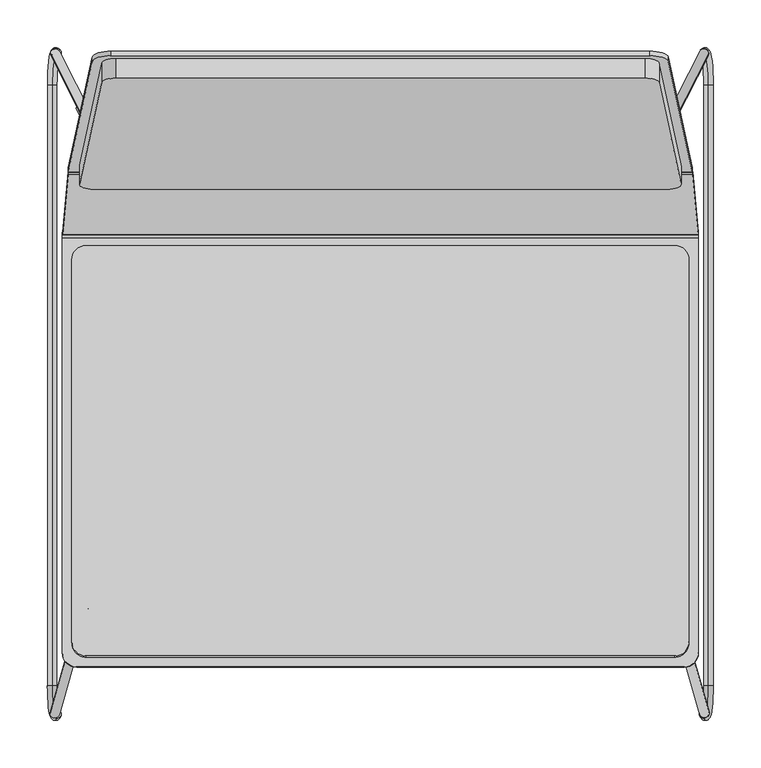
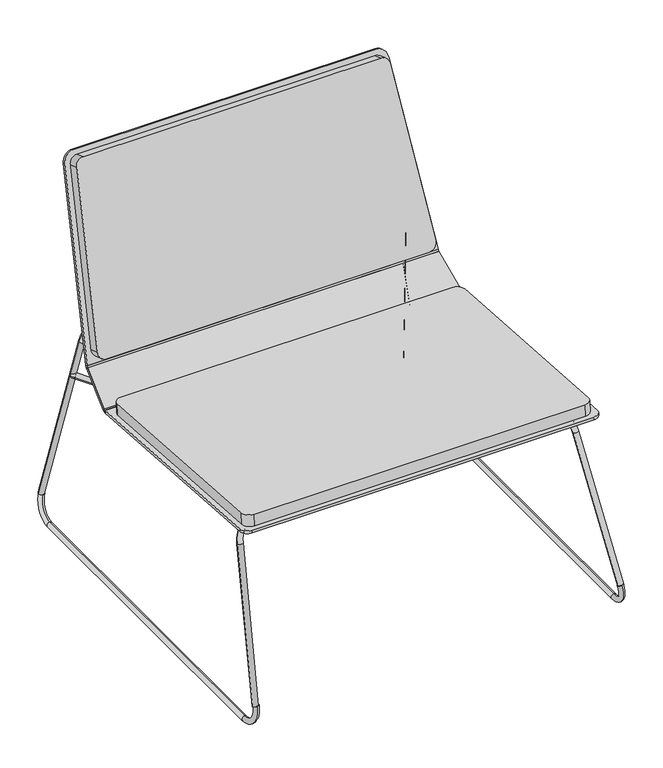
"""IFC4 building model written with IfcOpenShell, lengths in millimetres: furniture geometry, Tom Collection_B : Tom Collection_B."""

from ifc_helpers import new_model, si_unit, point, frame, frame_2d, origin, place, context, project, spatial, polyline, circle_curve, ellipse_curve, trimmed, segment, composite_curve, outline, extrude, source, transform, mapped, element, save
from ifc_brep_helpers import plane_surface, cylinder_surface, revolved_surface, advanced_brep


def furniture_996d12b4(model_context):
    return source(origin(), model_context, "Body", "SolidModel", [
        extrude(outline(polyline([(6.9942414, 0.0), (6.8397608, -6.9925099), (-0.1544552, -6.9925358), (0.0, 0.0), (6.9942414, 0.0)])), frame((-134.9998993, 268.6484736, 418.518617), z_axis=(0.0, -0.9781481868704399, 0.20790893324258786), x_axis=(0.7148717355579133, -0.1453814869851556, -0.6839756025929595)), (0.0, 0.0, 1.0), 14.9999995),
        extrude(outline(composite_curve([segment(polyline([(247.5043369, 434.0226366), (252.2858806, 432.5608731), (249.5216766, 423.5195414)]), True, "CONTINUOUS"), segment(trimmed(circle_curve(frame_2d((252.3905916, 422.6424287)), 3.0), [point((249.5216766, 423.5195414))], [point((251.7668647, 419.7079842))], True, "CARTESIAN"), True, "CONTINUOUS"), segment(polyline([(251.7668647, 419.7079842), (269.2842105, 415.9846088)]), True, "CONTINUOUS"), segment(trimmed(circle_curve(frame_2d((269.9079374, 418.9190534)), 3.0), [point((269.2842105, 415.9846088))], [point((272.8855759, 418.5534464))], True, "CARTESIAN"), True, "CONTINUOUS"), segment(polyline([(272.8855759, 418.5534464), (274.037768, 427.9373249), (279.0004949, 427.3279152), (277.7152991, 416.8608908)]), True, "CONTINUOUS"), segment(trimmed(circle_curve(frame_2d((270.7674766, 417.7139806)), 7.0), [point((277.7152991, 416.8608908))], [point((269.3119915, 410.8669694))], False, "CARTESIAN"), True, "CONTINUOUS"), segment(polyline([(269.3119915, 410.8669694), (249.6598051, 415.0444803)]), True, "CONTINUOUS"), segment(trimmed(circle_curve(frame_2d((251.1152902, 421.8914915)), 7.0), [point((249.6598051, 415.0444803))], [point((244.4211616, 423.9381091))], False, "CARTESIAN"), True, "CONTINUOUS"), segment(polyline([(244.4211616, 423.9381091), (247.5043369, 434.0226366)]), True, "CONTINUOUS")], self_intersect=False)), frame((-138.0311096, 0.0, 0.0), z_axis=(1.0, 0.0, 0.0), x_axis=(0.0, 1.0, 0.0)), (0.0, 0.0, 1.0), 6.06213),
        extrude(outline(polyline([(0.0, 0.0), (-0.1544812, -6.9925352), (-7.1487226, -6.9925092), (-6.9942161, 0.0), (0.0, 0.0)])), frame((129.9999138, 267.6316404, 413.7347265), z_axis=(0.0, -0.97814818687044, 0.2079089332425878), x_axis=(-0.714874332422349, 0.1453809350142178, 0.6839730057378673)), (0.0, 0.0, 1.0), 14.9999995),
        extrude(outline(composite_curve([segment(polyline([(247.5043369, 434.0226366), (252.2858806, 432.5608731), (249.5216766, 423.5195414)]), True, "CONTINUOUS"), segment(trimmed(circle_curve(frame_2d((252.3905916, 422.6424287)), 3.0), [point((249.5216766, 423.5195414))], [point((251.7668647, 419.7079842))], True, "CARTESIAN"), True, "CONTINUOUS"), segment(polyline([(251.7668647, 419.7079842), (269.2842105, 415.9846088)]), True, "CONTINUOUS"), segment(trimmed(circle_curve(frame_2d((269.9079374, 418.9190534)), 3.0), [point((269.2842105, 415.9846088))], [point((272.8855759, 418.5534464))], True, "CARTESIAN"), True, "CONTINUOUS"), segment(polyline([(272.8855759, 418.5534464), (274.037768, 427.9373249), (279.0004949, 427.3279152), (277.7152991, 416.8608908)]), True, "CONTINUOUS"), segment(trimmed(circle_curve(frame_2d((270.7674766, 417.7139806)), 7.0), [point((277.7152991, 416.8608908))], [point((269.3119915, 410.8669694))], False, "CARTESIAN"), True, "CONTINUOUS"), segment(polyline([(269.3119915, 410.8669694), (249.6598051, 415.0444803)]), True, "CONTINUOUS"), segment(trimmed(circle_curve(frame_2d((251.1152902, 421.8914915)), 7.0), [point((249.6598051, 415.0444803))], [point((244.4211616, 423.9381091))], False, "CARTESIAN"), True, "CONTINUOUS"), segment(polyline([(244.4211616, 423.9381091), (247.5043369, 434.0226366)]), True, "CONTINUOUS")], self_intersect=False)), frame((131.9689796, 0.0, 0.0), z_axis=(1.0, 0.0, 0.0), x_axis=(0.0, 1.0, 0.0)), (0.0, 0.0, 1.0), 6.06213),
        advanced_brep(
        [(340.8004455, -357.9633095, 43.4566213), (341.184584, -348.602756, 39.9591257), (346.1708796, -323.9025252, -5.439983), (345.0791204, -323.9025252, 4.5002415), (345.0791204, 308.640969, 4.5002415), (346.1708796, 308.640969, -5.439983), (340.8899225, 347.1435791, 42.6419528), (341.1192356, 337.3666511, 40.5541082)],
        [
            (0, 1, circle_curve(frame((340.9925147, -353.2830328, 41.7078735), z_axis=(-0.10219471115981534, 0.3518527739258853, 0.9304600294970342), x_axis=(0.038413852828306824, 0.936055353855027, -0.3497495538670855)), 5.0)),
            (1, 0, circle_curve(frame((340.9925147, -353.2830328, 41.7078735), z_axis=(-0.10219471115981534, 0.3518527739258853, 0.9304600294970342), x_axis=(0.038413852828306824, 0.936055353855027, -0.3497495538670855)), 5.0)),
            (2, 0, circle_curve(frame((342.1982324, -323.9025252, 30.7300832), z_axis=(-0.9940224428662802, 0.0, -0.10917592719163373), x_axis=(-0.03841385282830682, -0.936055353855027, 0.3497495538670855)), 36.3875749)),
            (1, 3, circle_curve(frame((342.1982324, -323.9025252, 30.7300832), z_axis=(0.9940224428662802, 0.0, 0.10917592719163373), x_axis=(-0.03841385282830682, -0.936055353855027, 0.3497495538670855)), 26.3875749)),
            (3, 2, circle_curve(frame((345.625, -323.9025252, -0.4698707), z_axis=(0.0, -1.0, 0.0), x_axis=(-0.10917592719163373, 0.0, 0.9940224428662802)), 5.0)),
            (2, 3, circle_curve(frame((345.625, -323.9025252, -0.4698707), z_axis=(0.0, -1.0, 0.0), x_axis=(-0.10917592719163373, 0.0, 0.9940224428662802)), 5.0)),
            (3, 4),
            (4, 5, circle_curve(frame((345.625, 308.640969, -0.4698707), z_axis=(0.0, -1.0, 0.0), x_axis=(-0.10917592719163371, 0.0, 0.99402244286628)), 5.0)),
            (5, 2),
            (5, 4, circle_curve(frame((345.625, 308.640969, -0.4698707), z_axis=(0.0, -1.0, 0.0), x_axis=(-0.10917592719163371, 0.0, 0.99402244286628)), 5.0)),
            (6, 7, circle_curve(frame((341.004579, 342.2551151, 41.5980305), z_axis=(-0.10674051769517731, -0.21003998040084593, 0.971848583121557), x_axis=(0.02293130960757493, -0.9776927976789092, -0.20878445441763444)), 5.0)),
            (7, 6, circle_curve(frame((341.004579, 342.2551151, 41.5980305), z_axis=(-0.10674051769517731, -0.21003998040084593, 0.971848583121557), x_axis=(0.02293130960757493, -0.9776927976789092, -0.20878445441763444)), 5.0)),
            (6, 5, circle_curve(frame((341.8066773, 308.0570837, 34.2951053), z_axis=(-0.9940224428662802, 0.0, -0.10917592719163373), x_axis=(0.10916428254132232, 0.01460505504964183, -0.9939164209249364)), 39.9782994)),
            (4, 7, circle_curve(frame((341.8066773, 308.0570837, 34.2951053), z_axis=(0.9940224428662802, 0.0, 0.10917592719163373), x_axis=(0.10916428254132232, 0.01460505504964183, -0.9939164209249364)), 29.9782994)),
        ],
        [
            plane_surface(frame((-2.7585614, -357.9633095, 5.7226914), z_axis=(-0.10219471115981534, 0.3518527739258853, 0.9304600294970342), x_axis=(-0.9940224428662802, 0.0, -0.10917592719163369))),
            revolved_surface(trimmed(ellipse_curve(frame((340.9925147, -353.2830328, 41.7078735), z_axis=(-0.10219471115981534, 0.3518527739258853, 0.9304600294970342), x_axis=(0.038413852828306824, 0.936055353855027, -0.3497495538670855)), 5.0, 5.0), [point((341.184584, -348.602756, 39.9591257))], [point((340.8004455, -357.9633095, 43.4566213))], True, "CARTESIAN"), (-1.3607744, -323.9025252, -7.0038467), (0.9940224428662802, 0.0, 0.10917592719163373)),
            revolved_surface(trimmed(ellipse_curve(frame((340.9925147, -353.2830328, 41.7078735), z_axis=(-0.10219471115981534, 0.3518527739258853, 0.9304600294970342), x_axis=(0.038413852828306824, 0.936055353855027, -0.3497495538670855)), 5.0, 5.0), [point((340.8004455, -357.9633095, 43.4566213))], [point((341.184584, -348.602756, 39.9591257))], True, "CARTESIAN"), (-1.3607744, -323.9025252, -7.0038467), (0.9940224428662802, 0.0, 0.10917592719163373)),
            cylinder_surface(frame((345.625, -323.9025252, -0.4698707), z_axis=(0.0, -1.0, 0.0), x_axis=(-0.10917592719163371, 0.0, 0.99402244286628)), 5.0),
            plane_surface(frame((-2.6690843, 347.1435791, 4.9080229), z_axis=(-0.10674051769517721, -0.21003998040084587, 0.9718485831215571), x_axis=(-0.9940224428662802, 0.0, -0.10917592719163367))),
            revolved_surface(trimmed(ellipse_curve(frame((345.6250582, 308.5679437, -0.4704009), z_axis=(0.0015945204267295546, -0.9998933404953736, -0.014517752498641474), x_axis=(-0.10916428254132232, -0.014605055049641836, 0.9939164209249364)), 5.0, 5.0), [point((345.0792368, 308.4949184, 4.4991812))], [point((346.1708796, 308.640969, -5.439983))], True, "CARTESIAN"), (-1.7523296, 308.0570837, -3.4388245), (0.9940224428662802, 0.0, 0.10917592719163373)),
            revolved_surface(trimmed(ellipse_curve(frame((345.6250582, 308.5679437, -0.4704009), z_axis=(0.0015945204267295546, -0.9998933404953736, -0.014517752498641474), x_axis=(-0.10916428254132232, -0.014605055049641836, 0.9939164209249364)), 5.0, 5.0), [point((346.1708796, 308.640969, -5.439983))], [point((345.0792368, 308.4949184, 4.4991812))], True, "CARTESIAN"), (-1.7523296, 308.0570837, -3.4388245), (0.9940224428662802, 0.0, 0.10917592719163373)),
        ],
        [
            (0, [[1, 2]]),
            (1, [[3, -2, 4, 5]]),
            (2, [[-4, -1, -3, 6]]),
            (3, [[-5, 7, 8, 9]]),
            (3, [[-6, -9, 10, -7]]),
            (4, [[11, 12]]),
            (5, [[13, -8, 14, -11]]),
            (6, [[-14, -10, -13, -12]]),
        ],
    ),
        extrude(outline(composite_curve([segment(trimmed(circle_curve(frame_2d((-243.75, 5.0)), 5.0), [point((-243.75, 10.0))], [point((-243.75, 0.0))], False, "CARTESIAN"), True, "CONTINUOUS"), segment(trimmed(circle_curve(frame_2d((-243.75, 5.0)), 5.0), [point((-243.75, 0.0))], [point((-243.75, 10.0))], False, "CARTESIAN"), True, "CONTINUOUS")], self_intersect=False)), frame((0.0, 133.4421426, 305.428014), z_axis=(0.0, -0.997564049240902, 0.06975648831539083), x_axis=(1.0, 0.0, 0.0)), (0.0, 0.0, 1.0), 374.4520826),
        extrude(outline(composite_curve([segment(trimmed(circle_curve(frame_2d((236.25, 5.0)), 5.0), [point((236.25, 10.0))], [point((236.25, 0.0))], False, "CARTESIAN"), True, "CONTINUOUS"), segment(trimmed(circle_curve(frame_2d((236.25, 5.0)), 5.0), [point((236.25, 0.0))], [point((236.25, 10.0))], False, "CARTESIAN"), True, "CONTINUOUS")], self_intersect=False)), frame((0.0, 133.4421426, 305.428014), z_axis=(0.0, -0.997564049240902, 0.06975648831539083), x_axis=(1.0, 0.0, 0.0)), (0.0, 0.0, 1.0), 374.4520826),
        advanced_brep(
        [(304.4321116, 288.602553, 299.3326364), (313.4912333, 284.3786808, 299.6346605), (236.6776092, 144.025734, 309.6704702), (245.7367308, 139.8018618, 309.9724943), (227.6184875, 128.3005393, 310.7948859), (227.6184875, 138.2750727, 310.0816659), (-234.5437756, 138.2750727, 310.0816659), (-234.5437756, 128.3005393, 310.7948859), (-252.6620214, 139.8018672, 309.9724939), (-243.6028985, 144.0257367, 309.67047), (-311.3573575, 288.6025759, 299.3326348), (-320.4164804, 284.3787064, 299.6346587)],
        [
            (0, 1, circle_curve(frame((308.9616724, 286.4906169, 299.4836485), z_axis=(0.42346564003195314, 0.9036051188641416, -0.06461146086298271), x_axis=(0.9059121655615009, -0.4223872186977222, 0.030202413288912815)), 5.0)),
            (1, 0, circle_curve(frame((308.9616724, 286.4906169, 299.4836485), z_axis=(0.42346564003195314, 0.9036051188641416, -0.06461146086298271), x_axis=(0.9059121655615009, -0.4223872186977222, 0.030202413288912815)), 5.0)),
            (0, 2),
            (2, 3, circle_curve(frame((241.20717, 141.9137979, 309.8214822), z_axis=(0.42346564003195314, 0.9036051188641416, -0.06461146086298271), x_axis=(0.9059121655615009, -0.4223872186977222, 0.030202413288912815)), 5.0)),
            (3, 1),
            (3, 2, circle_curve(frame((241.20717, 141.9137979, 309.8214822), z_axis=(0.42346564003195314, 0.9036051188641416, -0.06461146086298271), x_axis=(0.9059121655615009, -0.4223872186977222, 0.030202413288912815)), 5.0)),
            (4, 3, circle_curve(frame((227.6184875, 148.2496062, 309.368446), z_axis=(0.0, 0.07132199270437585, 0.9974533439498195), x_axis=(0.9059121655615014, -0.422387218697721, 0.030202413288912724)), 20.0)),
            (2, 5, circle_curve(frame((227.6184875, 148.2496062, 309.368446), z_axis=(0.0, -0.07132199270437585, -0.9974533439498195), x_axis=(0.9059121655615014, -0.422387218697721, 0.030202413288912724)), 10.0)),
            (5, 4, circle_curve(frame((227.6184875, 133.287806, 310.4382759), z_axis=(0.9999999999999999, 0.0, 0.0), x_axis=(0.0, -0.9974533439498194, 0.07132199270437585)), 5.0)),
            (4, 5, circle_curve(frame((227.6184875, 133.287806, 310.4382759), z_axis=(0.9999999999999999, 0.0, 0.0), x_axis=(0.0, -0.9974533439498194, 0.07132199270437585)), 5.0)),
            (5, 6),
            (6, 7, circle_curve(frame((-234.5437756, 133.287806, 310.4382759), z_axis=(1.0, 0.0, 0.0), x_axis=(0.0, -0.9974533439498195, 0.07132199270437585)), 5.0)),
            (7, 4),
            (7, 6, circle_curve(frame((-234.5437756, 133.287806, 310.4382759), z_axis=(1.0, 0.0, 0.0), x_axis=(0.0, -0.9974533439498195, 0.07132199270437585)), 5.0)),
            (8, 7, circle_curve(frame((-234.5437756, 148.2496062, 309.368446), z_axis=(0.0, 0.07132199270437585, 0.9974533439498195), x_axis=(0.0, -0.9974533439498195, 0.07132199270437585)), 20.0)),
            (6, 9, circle_curve(frame((-234.5437756, 148.2496062, 309.368446), z_axis=(0.0, -0.07132199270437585, -0.9974533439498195), x_axis=(0.0, -0.9974533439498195, 0.07132199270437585)), 10.0)),
            (9, 8, circle_curve(frame((-248.1324599, 141.9138019, 309.8214819), z_axis=(0.4234653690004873, -0.9036052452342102, 0.06461146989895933), x_axis=(-0.9059122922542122, -0.42238694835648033, 0.030202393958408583)), 5.0)),
            (8, 9, circle_curve(frame((-248.1324599, 141.9138019, 309.8214819), z_axis=(0.42346536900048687, -0.9036052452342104, 0.06461146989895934), x_axis=(-0.9059122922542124, -0.4223869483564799, 0.03020239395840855)), 5.0)),
            (10, 11, circle_curve(frame((-315.886919, 286.4906412, 299.4836467), z_axis=(-0.42346536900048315, 0.9036052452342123, -0.06461146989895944), x_axis=(-0.9059122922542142, -0.4223869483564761, 0.03020239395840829)), 5.0)),
            (11, 10, circle_curve(frame((-315.886919, 286.4906412, 299.4836467), z_axis=(-0.42346536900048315, 0.9036052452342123, -0.06461146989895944), x_axis=(-0.9059122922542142, -0.4223869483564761, 0.03020239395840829)), 5.0)),
            (9, 10),
            (11, 8),
        ],
        [
            plane_surface(frame((313.4912333, 262.2376044, -10.0130358), z_axis=(0.4234656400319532, 0.9036051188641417, -0.06461146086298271), x_axis=(0.0, 0.07132199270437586, 0.9974533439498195))),
            cylinder_surface(frame((308.9616724, 286.4906169, 299.4836485), z_axis=(0.42346564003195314, 0.9036051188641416, -0.06461146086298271), x_axis=(0.9059121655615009, -0.4223872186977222, 0.030202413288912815)), 5.0),
            revolved_surface(trimmed(ellipse_curve(frame((241.20717, 141.9137979, 309.8214822), z_axis=(0.4234656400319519, 0.9036051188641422, -0.06461146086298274), x_axis=(0.9059121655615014, -0.422387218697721, 0.030202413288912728)), 5.0, 5.0), [point((236.6776092, 144.025734, 309.6704702))], [point((245.7367308, 139.8018618, 309.9724943))], True, "CARTESIAN"), (227.6184875, 126.1085297, -0.2792504), (0.0, -0.07132199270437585, -0.9974533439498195)),
            revolved_surface(trimmed(ellipse_curve(frame((241.20717, 141.9137979, 309.8214822), z_axis=(0.4234656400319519, 0.9036051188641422, -0.06461146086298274), x_axis=(0.9059121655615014, -0.422387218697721, 0.030202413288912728)), 5.0, 5.0), [point((245.7367308, 139.8018618, 309.9724943))], [point((236.6776092, 144.025734, 309.6704702))], True, "CARTESIAN"), (227.6184875, 126.1085297, -0.2792504), (0.0, -0.07132199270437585, -0.9974533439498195)),
            cylinder_surface(frame((227.6184875, 133.287806, 310.4382759), z_axis=(1.0, 0.0, 0.0), x_axis=(0.0, -0.9974533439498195, 0.07132199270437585)), 5.0),
            revolved_surface(trimmed(ellipse_curve(frame((-234.5437756, 133.287806, 310.4382759), z_axis=(1.0, 0.0, 0.0), x_axis=(0.0, -0.9974533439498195, 0.07132199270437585)), 5.0, 5.0), [point((-234.5437756, 138.2750727, 310.0816659))], [point((-234.5437756, 128.3005393, 310.7948859))], True, "CARTESIAN"), (-234.5437756, 126.1085297, -0.2792504), (0.0, -0.07132199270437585, -0.9974533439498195)),
            revolved_surface(trimmed(ellipse_curve(frame((-234.5437756, 133.287806, 310.4382759), z_axis=(1.0, 0.0, 0.0), x_axis=(0.0, -0.9974533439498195, 0.07132199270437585)), 5.0, 5.0), [point((-234.5437756, 128.3005393, 310.7948859))], [point((-234.5437756, 138.2750727, 310.0816659))], True, "CARTESIAN"), (-234.5437756, 126.1085297, -0.2792504), (0.0, -0.07132199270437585, -0.9974533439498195)),
            plane_surface(frame((-320.4164804, 262.23763, -10.0130377), z_axis=(-0.42346536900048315, 0.9036052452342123, -0.06461146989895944), x_axis=(0.0, 0.07132199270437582, 0.9974533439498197))),
            cylinder_surface(frame((-248.1324599, 141.9138019, 309.8214819), z_axis=(0.42346536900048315, -0.9036052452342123, 0.06461146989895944), x_axis=(-0.9059122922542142, -0.4223869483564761, 0.03020239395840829)), 5.0),
        ],
        [
            (0, [[1, 2]]),
            (1, [[-1, 3, 4, 5]]),
            (1, [[-2, -5, 6, -3]]),
            (2, [[7, -4, 8, 9]]),
            (3, [[-8, -6, -7, 10]]),
            (4, [[-9, 11, 12, 13]]),
            (4, [[-10, -13, 14, -11]]),
            (5, [[15, -12, 16, 17]]),
            (6, [[-16, -14, -15, 18]]),
            (7, [[19, 20]]),
            (8, [[-17, 21, -20, 22]]),
            (8, [[-18, -22, -19, -21]]),
        ],
    ),
        advanced_brep(
        [(263.9560209, -241.4770677, 331.7659088), (263.9560209, -237.8979323, 341.1034561), (-265.4416364, -237.8979323, 341.1034561), (-265.4416364, -241.4770677, 331.7659088), (346.4268899, -352.7858605, 41.3742324), (336.478708, -353.1497506, 40.4248854), (318.6710217, -255.581781, 294.9683544), (308.7228397, -255.9456712, 294.0190074), (-310.2082965, -255.9451153, 294.0204577), (-320.1564431, -255.5811016, 294.970127), (-347.9217342, -352.7848363, 41.3769044), (-337.9735875, -353.14885, 40.4272351)],
        [
            (0, 1, circle_curve(frame((263.9560209, -239.6875, 336.4346825), z_axis=(-1.0, 0.0, 0.0), x_axis=(0.0, -0.3579135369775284, -0.9337547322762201)), 5.0)),
            (1, 2),
            (2, 3, circle_curve(frame((-265.4416364, -239.6875, 336.4346825), z_axis=(1.0, 0.0, 0.0), x_axis=(0.0, -0.3579135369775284, -0.9337547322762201)), 5.0)),
            (3, 0),
            (1, 0, circle_curve(frame((263.9560209, -239.6875, 336.4346825), z_axis=(-1.0, 0.0, 0.0), x_axis=(0.0, -0.3579135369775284, -0.9337547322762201)), 5.0)),
            (3, 2, circle_curve(frame((-265.4416364, -239.6875, 336.4346825), z_axis=(1.0, 0.0, 0.0), x_axis=(0.0, -0.3579135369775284, -0.9337547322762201)), 5.0)),
            (4, 5, circle_curve(frame((341.4527989, -352.9678056, 40.8995589), z_axis=(0.1016698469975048, -0.35605889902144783, -0.9289161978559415), x_axis=(-0.9948181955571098, -0.036389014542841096, -0.09493470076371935)), 5.0)),
            (5, 4, circle_curve(frame((341.4527989, -352.9678056, 40.8995589), z_axis=(0.1016698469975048, -0.35605889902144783, -0.9289161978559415), x_axis=(-0.9948181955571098, -0.036389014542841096, -0.09493470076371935)), 5.0)),
            (4, 6),
            (6, 7, circle_curve(frame((313.6969307, -255.7637261, 294.4936809), z_axis=(0.1016698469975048, -0.35605889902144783, -0.9289161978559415), x_axis=(-0.9948181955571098, -0.036389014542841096, -0.09493470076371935)), 5.0)),
            (7, 5),
            (7, 6, circle_curve(frame((313.6969307, -255.7637261, 294.4936809), z_axis=(0.1016698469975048, -0.35605889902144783, -0.9289161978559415), x_axis=(-0.9948181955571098, -0.036389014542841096, -0.09493470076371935)), 5.0)),
            (0, 7, circle_curve(frame((263.9560209, -257.5831768, 289.7469459), z_axis=(0.0, 0.9337547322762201, -0.3579135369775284), x_axis=(0.9948181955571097, 0.03638901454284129, 0.09493470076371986)), 45.0)),
            (6, 1, circle_curve(frame((263.9560209, -257.5831768, 289.7469459), z_axis=(0.0, -0.9337547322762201, 0.3579135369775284), x_axis=(0.9948181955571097, 0.03638901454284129, 0.09493470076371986)), 55.0)),
            (8, 3, circle_curve(frame((-265.4416364, -257.5831768, 289.7469459), z_axis=(0.0, 0.9337547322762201, -0.3579135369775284), x_axis=(0.0, 0.3579135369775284, 0.9337547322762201)), 45.0)),
            (2, 9, circle_curve(frame((-265.4416364, -257.5831768, 289.7469459), z_axis=(0.0, -0.9337547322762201, 0.3579135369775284), x_axis=(0.0, 0.3579135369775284, 0.9337547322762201)), 55.0)),
            (9, 8, circle_curve(frame((-315.1823698, -255.7631084, 294.4952924), z_axis=(0.10170436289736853, 0.35605763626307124, 0.9289129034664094), x_axis=(0.9948146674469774, -0.03640136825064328, -0.0949669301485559)), 5.0)),
            (8, 9, circle_curve(frame((-315.1823698, -255.7631084, 294.4952924), z_axis=(0.1017043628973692, 0.35605763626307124, 0.9289129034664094), x_axis=(0.9948146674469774, -0.03640136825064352, -0.0949669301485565)), 5.0)),
            (10, 11, circle_curve(frame((-342.9476609, -352.9668431, 40.9020697), z_axis=(-0.1017043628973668, -0.3560576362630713, -0.9289129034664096), x_axis=(0.9948146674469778, -0.03640136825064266, -0.09496693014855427)), 5.0)),
            (11, 10, circle_curve(frame((-342.9476609, -352.9668431, 40.9020697), z_axis=(-0.1017043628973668, -0.3560576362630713, -0.9289129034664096), x_axis=(0.9948146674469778, -0.03640136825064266, -0.09496693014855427)), 5.0)),
            (9, 10),
            (11, 8),
        ],
        [
            cylinder_surface(frame((263.9560209, -239.6875, 336.4346825), z_axis=(1.0000000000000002, 0.0, 0.0), x_axis=(0.0, -0.3579135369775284, -0.9337547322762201)), 5.0),
            plane_surface(frame((346.4268899, -128.9765231, -44.4131685), z_axis=(0.1016698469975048, -0.35605889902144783, -0.9289161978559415), x_axis=(0.0, -0.9337547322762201, 0.35791353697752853))),
            cylinder_surface(frame((341.4527989, -352.9678056, 40.8995589), z_axis=(0.1016698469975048, -0.35605889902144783, -0.9289161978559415), x_axis=(-0.9948181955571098, -0.036389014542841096, -0.09493470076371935)), 5.0),
            revolved_surface(trimmed(ellipse_curve(frame((313.6969307, -255.7637261, 294.4936809), z_axis=(0.10166984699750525, -0.35605889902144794, -0.9289161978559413), x_axis=(-0.9948181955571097, -0.03638901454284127, -0.09493470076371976)), 5.0, 5.0), [point((318.6710217, -255.581781, 294.9683544))], [point((308.7228397, -255.9456712, 294.0190074))], True, "CARTESIAN"), (263.9560209, -33.7738395, 203.959545), (0.0, -0.9337547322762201, 0.3579135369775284)),
            revolved_surface(trimmed(ellipse_curve(frame((313.6969307, -255.7637261, 294.4936809), z_axis=(0.10166984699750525, -0.35605889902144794, -0.9289161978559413), x_axis=(-0.9948181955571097, -0.03638901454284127, -0.09493470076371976)), 5.0, 5.0), [point((308.7228397, -255.9456712, 294.0190074))], [point((318.6710217, -255.581781, 294.9683544))], True, "CARTESIAN"), (263.9560209, -33.7738395, 203.959545), (0.0, -0.9337547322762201, 0.3579135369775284)),
            revolved_surface(trimmed(ellipse_curve(frame((-265.4416364, -239.6875, 336.4346825), z_axis=(1.0, 0.0, 0.0), x_axis=(0.0, -0.3579135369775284, -0.9337547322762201)), 5.0, 5.0), [point((-265.4416364, -237.8979323, 341.1034561))], [point((-265.4416364, -241.4770677, 331.7659088))], True, "CARTESIAN"), (-265.4416364, -33.7738395, 203.959545), (0.0, -0.9337547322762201, 0.3579135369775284)),
            revolved_surface(trimmed(ellipse_curve(frame((-265.4416364, -239.6875, 336.4346825), z_axis=(1.0, 0.0, 0.0), x_axis=(0.0, -0.3579135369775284, -0.9337547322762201)), 5.0, 5.0), [point((-265.4416364, -241.4770677, 331.7659088))], [point((-265.4416364, -237.8979323, 341.1034561))], True, "CARTESIAN"), (-265.4416364, -33.7738395, 203.959545), (0.0, -0.9337547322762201, 0.3579135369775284)),
            plane_surface(frame((-347.9217342, -128.9754989, -44.4104965), z_axis=(-0.1017043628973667, -0.3560576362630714, -0.9289129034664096), x_axis=(0.0, -0.9337547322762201, 0.3579135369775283))),
            cylinder_surface(frame((-315.1823698, -255.7631084, 294.4952924), z_axis=(0.1017043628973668, 0.3560576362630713, 0.9289129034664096), x_axis=(0.9948146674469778, -0.03640136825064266, -0.09496693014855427)), 5.0),
        ],
        [
            (0, [[1, 2, 3, 4]]),
            (0, [[5, -4, 6, -2]]),
            (1, [[7, 8]]),
            (2, [[-7, 9, 10, 11]]),
            (2, [[-8, -11, 12, -9]]),
            (3, [[13, -10, 14, -1]]),
            (4, [[-14, -12, -13, -5]]),
            (5, [[15, -3, 16, 17]]),
            (6, [[-16, -6, -15, 18]]),
            (7, [[19, 20]]),
            (8, [[-17, 21, -20, 22]]),
            (8, [[-18, -22, -19, -21]]),
        ],
    ),
        extrude(outline(composite_curve([segment(trimmed(circle_curve(frame_2d((-239.6875, 336.4346825)), 5.0), [point((-239.6875, 341.4346825))], [point((-239.6875, 331.4346825))], False, "CARTESIAN"), True, "CONTINUOUS"), segment(trimmed(circle_curve(frame_2d((-239.6875, 336.4346825)), 5.0), [point((-239.6875, 331.4346825))], [point((-239.6875, 341.4346825))], False, "CARTESIAN"), True, "CONTINUOUS")], self_intersect=False)), frame((-270.0858122, 0.0, 0.0), z_axis=(1.0, 0.0, 0.0), x_axis=(0.0, 1.0, 0.0)), (0.0, 0.0, 1.0), 533.6292723),
        advanced_brep(
        [(-340.8004455, -357.9633095, 43.4566213), (-341.184584, -348.602756, 39.9591257), (-345.0791204, -323.9025252, 4.5002415), (-346.1708796, -323.9025252, -5.439983), (-346.1708796, 308.640969, -5.439983), (-345.0791204, 308.640969, 4.5002415), (-340.8899225, 347.1435791, 42.6419528), (-341.1192356, 337.3666511, 40.5541082)],
        [
            (0, 1, circle_curve(frame((-340.9925147, -353.2830328, 41.7078735), z_axis=(0.10219471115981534, 0.3518527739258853, 0.9304600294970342), x_axis=(-0.038413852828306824, 0.936055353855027, -0.3497495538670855)), 5.0)),
            (1, 0, circle_curve(frame((-340.9925147, -353.2830328, 41.7078735), z_axis=(0.10219471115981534, 0.3518527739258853, 0.9304600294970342), x_axis=(-0.038413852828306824, 0.936055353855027, -0.3497495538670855)), 5.0)),
            (2, 1, circle_curve(frame((-342.1982324, -323.9025252, 30.7300832), z_axis=(-0.9940224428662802, 0.0, 0.10917592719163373), x_axis=(0.03841385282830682, -0.936055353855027, 0.3497495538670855)), 26.3875749)),
            (0, 3, circle_curve(frame((-342.1982324, -323.9025252, 30.7300832), z_axis=(0.9940224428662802, 0.0, -0.10917592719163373), x_axis=(0.03841385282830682, -0.936055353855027, 0.3497495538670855)), 36.3875749)),
            (3, 2, circle_curve(frame((-345.625, -323.9025252, -0.4698707), z_axis=(0.0, -1.0, 0.0), x_axis=(0.10917592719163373, 0.0, 0.9940224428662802)), 5.0)),
            (2, 3, circle_curve(frame((-345.625, -323.9025252, -0.4698707), z_axis=(0.0, -1.0, 0.0), x_axis=(0.10917592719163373, 0.0, 0.9940224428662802)), 5.0)),
            (3, 4),
            (4, 5, circle_curve(frame((-345.625, 308.640969, -0.4698707), z_axis=(0.0, -1.0, 0.0), x_axis=(0.10917592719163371, 0.0, 0.99402244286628)), 5.0)),
            (5, 2),
            (5, 4, circle_curve(frame((-345.625, 308.640969, -0.4698707), z_axis=(0.0, -1.0, 0.0), x_axis=(0.10917592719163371, 0.0, 0.99402244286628)), 5.0)),
            (6, 7, circle_curve(frame((-341.004579, 342.2551151, 41.5980305), z_axis=(0.10674051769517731, -0.21003998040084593, 0.971848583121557), x_axis=(-0.02293130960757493, -0.9776927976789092, -0.20878445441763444)), 5.0)),
            (7, 6, circle_curve(frame((-341.004579, 342.2551151, 41.5980305), z_axis=(0.10674051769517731, -0.21003998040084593, 0.971848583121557), x_axis=(-0.02293130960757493, -0.9776927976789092, -0.20878445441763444)), 5.0)),
            (7, 5, circle_curve(frame((-341.8066773, 308.0570837, 34.2951053), z_axis=(-0.9940224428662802, 0.0, 0.10917592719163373), x_axis=(-0.10916428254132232, 0.01460505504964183, -0.9939164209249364)), 29.9782994)),
            (4, 6, circle_curve(frame((-341.8066773, 308.0570837, 34.2951053), z_axis=(0.9940224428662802, 0.0, -0.10917592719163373), x_axis=(-0.10916428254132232, 0.01460505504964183, -0.9939164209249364)), 39.9782994)),
        ],
        [
            plane_surface(frame((2.7585614, -357.9633095, 5.7226914), z_axis=(0.10219471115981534, 0.3518527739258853, 0.9304600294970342), x_axis=(0.9940224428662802, 0.0, -0.10917592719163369))),
            revolved_surface(trimmed(ellipse_curve(frame((-340.9925147, -353.2830328, 41.7078735), z_axis=(0.10219471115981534, 0.3518527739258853, 0.9304600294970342), x_axis=(-0.038413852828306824, 0.936055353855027, -0.3497495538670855)), 5.0, 5.0), [point((-340.8004455, -357.9633095, 43.4566213))], [point((-341.184584, -348.602756, 39.9591257))], True, "CARTESIAN"), (1.3607744, -323.9025252, -7.0038467), (0.9940224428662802, 0.0, -0.10917592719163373)),
            revolved_surface(trimmed(ellipse_curve(frame((-340.9925147, -353.2830328, 41.7078735), z_axis=(0.10219471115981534, 0.3518527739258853, 0.9304600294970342), x_axis=(-0.038413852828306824, 0.936055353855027, -0.3497495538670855)), 5.0, 5.0), [point((-341.184584, -348.602756, 39.9591257))], [point((-340.8004455, -357.9633095, 43.4566213))], True, "CARTESIAN"), (1.3607744, -323.9025252, -7.0038467), (0.9940224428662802, 0.0, -0.10917592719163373)),
            cylinder_surface(frame((-345.625, -323.9025252, -0.4698707), z_axis=(0.0, -1.0, 0.0), x_axis=(0.10917592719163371, 0.0, 0.99402244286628)), 5.0),
            plane_surface(frame((2.6690843, 347.1435791, 4.9080229), z_axis=(0.10674051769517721, -0.21003998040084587, 0.9718485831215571), x_axis=(0.9940224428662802, 0.0, -0.10917592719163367))),
            revolved_surface(trimmed(ellipse_curve(frame((-345.6250582, 308.5679437, -0.4704009), z_axis=(-0.0015945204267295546, -0.9998933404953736, -0.014517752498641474), x_axis=(0.10916428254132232, -0.014605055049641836, 0.9939164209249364)), 5.0, 5.0), [point((-346.1708796, 308.640969, -5.439983))], [point((-345.0792368, 308.4949184, 4.4991812))], True, "CARTESIAN"), (1.7523296, 308.0570837, -3.4388245), (0.9940224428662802, 0.0, -0.10917592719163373)),
            revolved_surface(trimmed(ellipse_curve(frame((-345.6250582, 308.5679437, -0.4704009), z_axis=(-0.0015945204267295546, -0.9998933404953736, -0.014517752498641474), x_axis=(0.10916428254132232, -0.014605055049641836, 0.9939164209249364)), 5.0, 5.0), [point((-345.0792368, 308.4949184, 4.4991812))], [point((-346.1708796, 308.640969, -5.439983))], True, "CARTESIAN"), (1.7523296, 308.0570837, -3.4388245), (0.9940224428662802, 0.0, -0.10917592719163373)),
        ],
        [
            (0, [[1, 2]]),
            (1, [[3, -1, 4, 5]]),
            (2, [[-4, -2, -3, 6]]),
            (3, [[-5, 7, 8, 9]]),
            (3, [[-6, -9, 10, -7]]),
            (4, [[11, 12]]),
            (5, [[13, -8, 14, -12]]),
            (6, [[-14, -10, -13, -11]]),
        ],
    ),
        advanced_brep(
        [(345.8243589, 341.6843719, 42.1373971), (335.8791401, 341.901618, 41.1149363), (310.2846476, 271.4078578, 372.8912943), (300.3394287, 271.6251039, 371.8688335), (255.5859439, 263.2501736, 411.285143), (255.5859439, 261.1718319, 421.0667838), (-257.0859261, 261.1718319, 421.0667838), (-257.0859261, 263.2501736, 411.285143), (-301.8394114, 271.6251048, 371.8688291), (-311.7846304, 271.407859, 372.891289), (-347.3243083, 341.6843738, 42.1373884), (-337.3790894, 341.9016196, 41.1149286)],
        [
            (0, 1, circle_curve(frame((340.8517495, 341.7929949, 41.6261667), z_axis=(0.10452856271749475, 0.20669562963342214, -0.9728055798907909), x_axis=(-0.9945218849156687, 0.021724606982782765, -0.10224608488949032)), 5.0)),
            (1, 0, circle_curve(frame((340.8517495, 341.7929949, 41.6261667), z_axis=(0.10452856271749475, 0.20669562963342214, -0.9728055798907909), x_axis=(-0.9945218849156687, 0.021724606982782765, -0.10224608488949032)), 5.0)),
            (0, 2),
            (2, 3, circle_curve(frame((305.3120382, 271.5164809, 372.3800639), z_axis=(0.10452856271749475, 0.20669562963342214, -0.9728055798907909), x_axis=(-0.9945218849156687, 0.021724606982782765, -0.10224608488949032)), 5.0)),
            (3, 1),
            (3, 2, circle_curve(frame((305.3120382, 271.5164809, 372.3800639), z_axis=(0.10452856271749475, 0.20669562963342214, -0.9728055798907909), x_axis=(-0.9945218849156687, 0.021724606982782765, -0.10224608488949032)), 5.0)),
            (4, 3, circle_curve(frame((255.5859439, 272.6027112, 367.2677596), z_axis=(0.0, 0.978164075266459, 0.2078341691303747), x_axis=(0.9945218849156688, -0.02172460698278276, 0.10224608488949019)), 45.0)),
            (2, 5, circle_curve(frame((255.5859439, 272.6027112, 367.2677596), z_axis=(0.0, -0.978164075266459, -0.2078341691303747), x_axis=(0.9945218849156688, -0.02172460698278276, 0.10224608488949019)), 55.0)),
            (5, 4, circle_curve(frame((255.5859439, 262.2110028, 416.1759634), z_axis=(1.0, 0.0, 0.0), x_axis=(0.0, 0.2078341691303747, -0.978164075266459)), 5.0)),
            (4, 5, circle_curve(frame((255.5859439, 262.2110028, 416.1759634), z_axis=(1.0, 0.0, 0.0), x_axis=(0.0, 0.20783416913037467, -0.978164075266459)), 5.0)),
            (5, 6),
            (6, 7, circle_curve(frame((-257.0859261, 262.2110028, 416.1759634), z_axis=(1.0, 0.0, 0.0), x_axis=(0.0, 0.2078341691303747, -0.9781640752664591)), 5.0)),
            (7, 4),
            (7, 6, circle_curve(frame((-257.0859261, 262.2110028, 416.1759634), z_axis=(1.0, 0.0, 0.0), x_axis=(0.0, 0.2078341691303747, -0.9781640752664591)), 5.0)),
            (8, 7, circle_curve(frame((-257.0859261, 272.6027112, 367.2677596), z_axis=(0.0, 0.978164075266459, 0.2078341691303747), x_axis=(0.0, -0.2078341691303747, 0.978164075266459)), 45.0)),
            (6, 9, circle_curve(frame((-257.0859261, 272.6027112, 367.2677596), z_axis=(0.0, -0.978164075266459, -0.2078341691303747), x_axis=(0.0, -0.2078341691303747, 0.978164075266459)), 55.0)),
            (9, 8, circle_curve(frame((-306.8120209, 271.5164819, 372.3800591), z_axis=(0.10452846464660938, -0.20669563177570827, 0.9728055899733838), x_axis=(0.9945218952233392, 0.021724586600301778, -0.1022459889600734)), 5.0)),
            (8, 9, circle_curve(frame((-306.8120209, 271.5164819, 372.3800591), z_axis=(0.10452846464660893, -0.20669563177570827, 0.972805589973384), x_axis=(0.9945218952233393, 0.021724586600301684, -0.10224598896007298)), 5.0)),
            (10, 11, circle_curve(frame((-342.3516989, 341.7929967, 41.6261585), z_axis=(-0.10452846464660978, 0.20669563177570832, -0.972805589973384), x_axis=(0.9945218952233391, 0.02172458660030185, -0.10224598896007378)), 5.0)),
            (11, 10, circle_curve(frame((-342.3516989, 341.7929967, 41.6261585), z_axis=(-0.10452846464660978, 0.20669563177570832, -0.972805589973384), x_axis=(0.9945218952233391, 0.02172458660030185, -0.10224598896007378)), 5.0)),
            (9, 10),
            (11, 8),
        ],
        [
            plane_surface(frame((345.8243589, 85.1989889, -12.3590088), z_axis=(0.10452856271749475, 0.20669562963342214, -0.9728055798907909), x_axis=(0.0, -0.978164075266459, -0.2078341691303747))),
            cylinder_surface(frame((340.8517495, 341.7929949, 41.6261667), z_axis=(0.10452856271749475, 0.20669562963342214, -0.9728055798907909), x_axis=(-0.9945218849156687, 0.021724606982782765, -0.10224608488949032)), 5.0),
            revolved_surface(trimmed(ellipse_curve(frame((305.3120382, 271.5164809, 372.3800639), z_axis=(0.10452856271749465, 0.2066956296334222, -0.972805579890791), x_axis=(-0.9945218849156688, 0.021724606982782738, -0.10224608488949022)), 5.0, 5.0), [point((310.2846476, 271.4078578, 372.8912943))], [point((300.3394287, 271.6251039, 371.8688335))], True, "CARTESIAN"), (255.5859439, 16.1173282, 312.7713537), (0.0, -0.978164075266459, -0.2078341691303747)),
            revolved_surface(trimmed(ellipse_curve(frame((305.3120382, 271.5164809, 372.3800639), z_axis=(0.10452856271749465, 0.2066956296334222, -0.972805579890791), x_axis=(-0.9945218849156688, 0.021724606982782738, -0.10224608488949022)), 5.0, 5.0), [point((300.3394287, 271.6251039, 371.8688335))], [point((310.2846476, 271.4078578, 372.8912943))], True, "CARTESIAN"), (255.5859439, 16.1173282, 312.7713537), (0.0, -0.978164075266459, -0.2078341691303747)),
            cylinder_surface(frame((255.5859439, 262.2110028, 416.1759634), z_axis=(1.0000000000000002, 0.0, 0.0), x_axis=(0.0, 0.2078341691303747, -0.9781640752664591)), 5.0),
            revolved_surface(trimmed(ellipse_curve(frame((-257.0859261, 262.2110028, 416.1759634), z_axis=(1.0, 0.0, 0.0), x_axis=(0.0, 0.20783416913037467, -0.978164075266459)), 5.0, 5.0), [point((-257.0859261, 261.1718319, 421.0667838))], [point((-257.0859261, 263.2501736, 411.285143))], True, "CARTESIAN"), (-257.0859261, 16.1173282, 312.7713537), (0.0, -0.978164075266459, -0.2078341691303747)),
            revolved_surface(trimmed(ellipse_curve(frame((-257.0859261, 262.2110028, 416.1759634), z_axis=(1.0, 0.0, 0.0), x_axis=(0.0, 0.20783416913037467, -0.978164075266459)), 5.0, 5.0), [point((-257.0859261, 263.2501736, 411.285143))], [point((-257.0859261, 261.1718319, 421.0667838))], True, "CARTESIAN"), (-257.0859261, 16.1173282, 312.7713537), (0.0, -0.978164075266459, -0.2078341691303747)),
            plane_surface(frame((-347.3243083, 85.1989907, -12.3590175), z_axis=(-0.1045284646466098, 0.20669563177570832, -0.9728055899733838), x_axis=(0.0, -0.978164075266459, -0.20783416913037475))),
            cylinder_surface(frame((-306.8120209, 271.5164819, 372.3800591), z_axis=(0.10452846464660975, -0.20669563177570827, 0.9728055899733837), x_axis=(0.9945218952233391, 0.02172458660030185, -0.10224598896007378)), 5.0),
        ],
        [
            (0, [[1, 2]]),
            (1, [[-1, 3, 4, 5]]),
            (1, [[-2, -5, 6, -3]]),
            (2, [[7, -4, 8, 9]]),
            (3, [[-8, -6, -7, 10]]),
            (4, [[-9, 11, 12, 13]]),
            (4, [[-10, -13, 14, -11]]),
            (5, [[15, -12, 16, 17]]),
            (6, [[-16, -14, -15, 18]]),
            (7, [[19, 20]]),
            (8, [[-17, 21, -20, 22]]),
            (8, [[-18, -22, -19, -21]]),
        ],
    ),
        extrude(outline(composite_curve([segment(trimmed(circle_curve(frame_2d((0.0, -15.0)), 15.0), [point((0.0, -29.9999999))], [point((-15.0, -15.0))], False, "CARTESIAN"), True, "CONTINUOUS"), segment(polyline([(-15.0, -15.0), (-15.0, 388.0000395)]), True, "CONTINUOUS"), segment(trimmed(circle_curve(frame_2d((0.0, 388.0000395)), 15.0), [point((-15.0, 388.0000395))], [point((0.0, 403.0000394))], False, "CARTESIAN"), True, "CONTINUOUS"), segment(polyline([(0.0, 403.0000394), (619.9999755, 403.0000394)]), True, "CONTINUOUS"), segment(trimmed(circle_curve(frame_2d((619.9999755, 388.0000395)), 15.0), [point((619.9999755, 403.0000394))], [point((634.9999755, 388.0000395))], False, "CARTESIAN"), True, "CONTINUOUS"), segment(polyline([(634.9999755, 388.0000395), (634.9999755, -15.0)]), True, "CONTINUOUS"), segment(trimmed(circle_curve(frame_2d((619.9999755, -15.0)), 15.0), [point((634.9999755, -15.0))], [point((619.9999755, -29.9999999))], False, "CARTESIAN"), True, "CONTINUOUS"), segment(polyline([(619.9999755, -29.9999999), (0.0, -29.9999999)]), True, "CONTINUOUS")], self_intersect=False)), frame((309.9999923, 108.1349043, 322.497733), z_axis=(0.0, 0.06975645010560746, 0.9975640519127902), x_axis=(-1.0, 0.0, 0.0)), (0.0, 0.0, 1.0), 22.0003535),
        extrude(outline(composite_curve([segment(trimmed(circle_curve(frame_2d((0.0, -15.0)), 15.0), [point((-14.9587527, -13.8883726))], [point((0.0, 0.0))], False, "CARTESIAN"), True, "CONTINUOUS"), segment(polyline([(0.0, 0.0), (557.2966517, 0.0)]), True, "CONTINUOUS"), segment(trimmed(circle_curve(frame_2d((557.2966517, -15.0)), 15.0), [point((557.2966517, 0.0))], [point((572.2554044, -13.8883725))], False, "CARTESIAN"), True, "CONTINUOUS"), segment(polyline([(572.2554044, -13.8883725), (595.4410111, -325.8883609)]), True, "CONTINUOUS"), segment(trimmed(circle_curve(frame_2d((580.4822584, -326.9999884)), 15.0), [point((595.4410111, -325.8883609))], [point((580.4822584, -341.9999884))], False, "CARTESIAN"), True, "CONTINUOUS"), segment(polyline([(580.4822584, -341.9999884), (-23.1856038, -341.9999884)]), True, "CONTINUOUS"), segment(trimmed(circle_curve(frame_2d((-23.1856038, -326.9999884)), 15.0), [point((-23.1856038, -341.9999884))], [point((-38.1443566, -325.8883611))], False, "CARTESIAN"), True, "CONTINUOUS"), segment(polyline([(-38.1443566, -325.8883611), (-14.9587527, -13.8883726)]), True, "CONTINUOUS")], self_intersect=False)), frame((-278.6512883, 336.4263009, 693.2744252), z_axis=(0.0, -0.9396926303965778, 0.3420201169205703), x_axis=(1.0, 0.0, 0.0)), (0.0, 0.0, 1.0), 22.0000076),
        extrude(outline(composite_curve([segment(trimmed(circle_curve(frame_2d((148.3404302, 324.698835)), 10.0), [point((153.7868248, 316.3121321))], [point((147.6428517, 314.7231955))], False, "CARTESIAN"), True, "CONTINUOUS"), segment(polyline([(147.6428517, 314.7231955), (147.991634, 319.7110158)]), True, "CONTINUOUS"), segment(trimmed(circle_curve(frame_2d((148.3404302, 324.698835)), 5.0), [point((147.991634, 319.7110158))], [point((151.0636299, 320.5054852))], True, "CARTESIAN"), True, "CONTINUOUS"), segment(polyline([(151.0636299, 320.5054852), (153.7868248, 316.3121321)]), True, "CONTINUOUS")], self_intersect=False)), frame((-334.9999837, 0.0, 0.0), z_axis=(1.0, 0.0, 0.0), x_axis=(0.0, 1.0, 0.0)), (0.0, 0.0, 1.0), 670.0000196),
        extrude(outline(composite_curve([segment(trimmed(circle_curve(frame_2d((212.0023074, 366.0413345)), 10.0), [point((221.3992386, 362.621147))], [point((217.4487066, 357.6546346))], False, "CARTESIAN"), True, "CONTINUOUS"), segment(polyline([(217.4487066, 357.6546346), (214.7255117, 361.8479876)]), True, "CONTINUOUS"), segment(trimmed(circle_curve(frame_2d((212.0023074, 366.0413345)), 5.0), [point((214.7255117, 361.8479876))], [point((216.7007755, 364.3312476))], True, "CARTESIAN"), True, "CONTINUOUS"), segment(polyline([(216.7007755, 364.3312476), (221.3992386, 362.621147)]), True, "CONTINUOUS")], self_intersect=False)), frame((-328.8617421, 0.0, 0.0), z_axis=(1.0, 0.0, 0.0), x_axis=(0.0, 1.0, 0.0)), (0.0, 0.0, 1.0), 657.474886),
        extrude(outline(composite_curve([segment(polyline([(-437.9540219, 0.0), (0.0, 0.0), (0.0, -670.0000196), (-437.9540219, -670.0000196)]), True, "CONTINUOUS"), segment(trimmed(circle_curve(frame_2d((-437.9540219, -655.0000196)), 15.0), [point((-437.9540219, -670.0000196))], [point((-452.9540218, -655.0000196))], False, "CARTESIAN"), True, "CONTINUOUS"), segment(polyline([(-452.9540218, -655.0000196), (-452.9540218, -15.0)]), True, "CONTINUOUS"), segment(trimmed(circle_curve(frame_2d((-437.9540219, -15.0)), 15.0), [point((-452.9540218, -15.0))], [point((-437.9540219, 0.0))], False, "CARTESIAN"), True, "CONTINUOUS")], self_intersect=False)), frame((-334.9999837, 147.6428517, 314.7231955), z_axis=(0.0, 0.06975645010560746, 0.9975640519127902), x_axis=(0.0, 0.9975640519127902, -0.06975645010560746)), (0.0, 0.0, 1.0), 5.0),
        extrude(outline(polyline([(-76.1362268, 0.0), (0.0, 0.0), (50.8980965, -656.0005462), (-24.3461723, -667.4965543), (-76.1362268, 0.0)])), frame((-328.8617421, 217.4487066, 357.6546346), z_axis=(0.0, -0.5446389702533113, 0.8386706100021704), x_axis=(0.07735600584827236, 0.8361575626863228, 0.5430069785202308)), (0.0, 0.0, 1.0), 5.0),
        extrude(outline(composite_curve([segment(polyline([(-360.1695433, 0.0), (-18.5688912, 0.0)]), True, "CONTINUOUS"), segment(trimmed(circle_curve(frame_2d((-18.5688913, -20.0)), 20.0), [point((-18.5688912, 0.0))], [point((1.3761125, -18.5178302))], False, "CARTESIAN"), True, "CONTINUOUS"), segment(polyline([(1.3761125, -18.5178302), (43.3737815, -583.6647179)]), True, "CONTINUOUS"), segment(trimmed(circle_curve(frame_2d((23.4287777, -585.1468877)), 20.0), [point((43.3737815, -583.6647179))], [point((26.3849655, -604.927205))], False, "CARTESIAN"), True, "CONTINUOUS"), segment(polyline([(26.3849655, -604.927205), (-311.4634983, -655.418988), (-360.1695433, 0.0)]), True, "CONTINUOUS")], self_intersect=False)), frame((-301.9214733, 344.2457313, 700.1391413), z_axis=(0.0, -0.9396926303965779, 0.3420201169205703), x_axis=(0.07410849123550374, 0.34107962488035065, 0.937108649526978)), (0.0, 0.0, 1.0), 5.0),
    ])


if __name__ == "__main__":
    model = new_model("IFC4")
    model_context = context("Model", 3, world=origin())
    ifc_project = project(units=[si_unit("LENGTHUNIT", "METRE", prefix="MILLI")], contexts=[model_context])
    site = spatial("IfcSite", under=ifc_project)
    building = spatial("IfcBuilding", under=site)
    placement = place(None, origin())
    furniture_shape = furniture_996d12b4(model_context)
    element("IfcFurniture", 1, ObjectType="Tom Collection_B : Tom Collection_B", at=placement, inside=building, context=model_context, shape_type="MappedRepresentation", body=[
        mapped(furniture_shape, transform((0.0, 0.0, 0.0), x_axis=(1.0, 0.0, 0.0), y_axis=(0.0, 1.0, 0.0), z_axis=(0.0, 0.0, 1.0))),
    ])
    save(model, "model.ifc")
